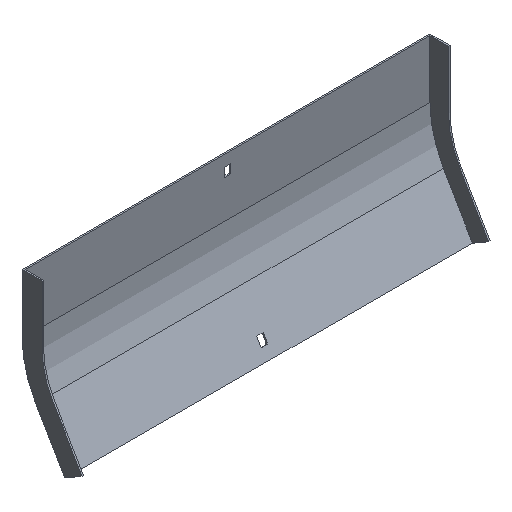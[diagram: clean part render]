
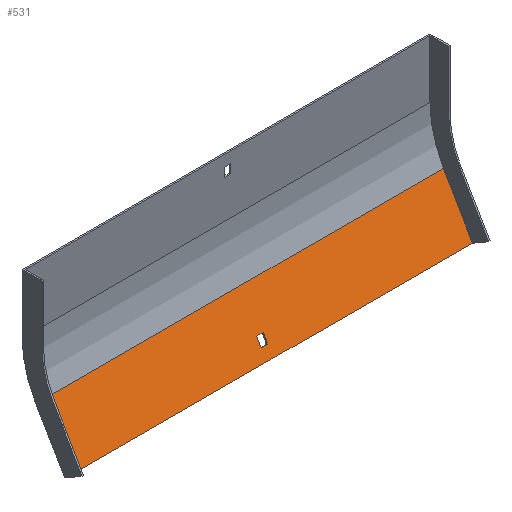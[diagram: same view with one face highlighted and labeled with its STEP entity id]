
A CAD part, isometric view. The second image highlights one B-rep face of the part: STEP entity #531.
In plain terms, the highlighted planar face has unit normal (0, -0.866, 0.5).
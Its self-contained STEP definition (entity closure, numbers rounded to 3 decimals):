
#14 = VERTEX_POINT ( 'NONE', #209 ) ;
#15 = EDGE_CURVE ( 'NONE', #756, #14, #817, .T. ) ;
#17 = LINE ( 'NONE', #208, #64 ) ;
#25 = CARTESIAN_POINT ( 'NONE',  ( -3.25, -33.847, -140.722 ) ) ;
#30 = CARTESIAN_POINT ( 'NONE',  ( 202., -43.847, -158.043 ) ) ;
#55 = VERTEX_POINT ( 'NONE', #25 ) ;
#61 = ORIENTED_EDGE ( 'NONE', *, *, #372, .T. ) ;
#64 = VECTOR ( 'NONE', #470, 1000. ) ;
#67 = CARTESIAN_POINT ( 'NONE',  ( 203.5, -33.847, -140.722 ) ) ;
#73 = CARTESIAN_POINT ( 'NONE',  ( 203.5, -14.897, -107.9 ) ) ;
#85 = ORIENTED_EDGE ( 'NONE', *, *, #15, .T. ) ;
#102 = FACE_BOUND ( 'NONE', #351, .T. ) ;
#110 = VERTEX_POINT ( 'NONE', #30 ) ;
#114 = ORIENTED_EDGE ( 'NONE', *, *, #844, .T. ) ;
#117 = CARTESIAN_POINT ( 'NONE',  ( 3.25, -33.847, -140.722 ) ) ;
#148 = CARTESIAN_POINT ( 'NONE',  ( -3.25, -14.897, -107.9 ) ) ;
#166 = DIRECTION ( 'NONE',  ( 0., 0.5, 0.866 ) ) ;
#185 = VECTOR ( 'NONE', #728, 1000. ) ;
#207 = LINE ( 'NONE', #148, #338 ) ;
#208 = CARTESIAN_POINT ( 'NONE',  ( 203.5, -43.847, -158.043 ) ) ;
#209 = CARTESIAN_POINT ( 'NONE',  ( -3.25, -38.347, -148.517 ) ) ;
#220 = EDGE_LOOP ( 'NONE', ( #289, #686, #61, #299 ) ) ;
#229 = VERTEX_POINT ( 'NONE', #117 ) ;
#247 = VECTOR ( 'NONE', #438, 1000. ) ;
#250 = ORIENTED_EDGE ( 'NONE', *, *, #783, .T. ) ;
#261 = CARTESIAN_POINT ( 'NONE',  ( 202., -14.897, -107.9 ) ) ;
#282 = DIRECTION ( 'NONE',  ( 0., -0.866, 0.5 ) ) ;
#289 = ORIENTED_EDGE ( 'NONE', *, *, #570, .F. ) ;
#299 = ORIENTED_EDGE ( 'NONE', *, *, #410, .T. ) ;
#303 = EDGE_CURVE ( 'NONE', #55, #229, #518, .T. ) ;
#315 = ORIENTED_EDGE ( 'NONE', *, *, #303, .T. ) ;
#318 = VECTOR ( 'NONE', #750, 1000. ) ;
#338 = VECTOR ( 'NONE', #803, 1000. ) ;
#351 = EDGE_LOOP ( 'NONE', ( #85, #250, #315, #114 ) ) ;
#368 = PLANE ( 'NONE',  #477 ) ;
#372 = EDGE_CURVE ( 'NONE', #110, #481, #622, .T. ) ;
#383 = EDGE_CURVE ( 'NONE', #110, #679, #17, .T. ) ;
#410 = EDGE_CURVE ( 'NONE', #481, #654, #615, .T. ) ;
#435 = DIRECTION ( 'NONE',  ( 0., -0.5, -0.866 ) ) ;
#438 = DIRECTION ( 'NONE',  ( 1., 0., 0. ) ) ;
#461 = LINE ( 'NONE', #669, #185 ) ;
#470 = DIRECTION ( 'NONE',  ( -1., 0., 0. ) ) ;
#477 = AXIS2_PLACEMENT_3D ( 'NONE', #833, #282, #435 ) ;
#481 = VERTEX_POINT ( 'NONE', #261 ) ;
#512 = CARTESIAN_POINT ( 'NONE',  ( -202., -14.897, -107.9 ) ) ;
#518 = LINE ( 'NONE', #67, #247 ) ;
#531 = ADVANCED_FACE ( 'NONE', ( #572, #102 ), #368, .T. ) ;
#551 = DIRECTION ( 'NONE',  ( -1., 0., 0. ) ) ;
#570 = EDGE_CURVE ( 'NONE', #679, #654, #767, .T. ) ;
#572 = FACE_OUTER_BOUND ( 'NONE', #220, .T. ) ;
#585 = CARTESIAN_POINT ( 'NONE',  ( 3.25, -38.347, -148.517 ) ) ;
#597 = CARTESIAN_POINT ( 'NONE',  ( -202., -43.847, -158.043 ) ) ;
#615 = LINE ( 'NONE', #73, #742 ) ;
#622 = LINE ( 'NONE', #737, #712 ) ;
#654 = VERTEX_POINT ( 'NONE', #512 ) ;
#669 = CARTESIAN_POINT ( 'NONE',  ( 3.25, -14.897, -107.9 ) ) ;
#671 = DIRECTION ( 'NONE',  ( 0., 0.5, 0.866 ) ) ;
#679 = VERTEX_POINT ( 'NONE', #597 ) ;
#686 = ORIENTED_EDGE ( 'NONE', *, *, #383, .F. ) ;
#712 = VECTOR ( 'NONE', #671, 1000. ) ;
#727 = VECTOR ( 'NONE', #166, 1000. ) ;
#728 = DIRECTION ( 'NONE',  ( 0., -0.5, -0.866 ) ) ;
#737 = CARTESIAN_POINT ( 'NONE',  ( 202., -14.897, -107.9 ) ) ;
#742 = VECTOR ( 'NONE', #551, 1000. ) ;
#745 = CARTESIAN_POINT ( 'NONE',  ( 203.5, -38.347, -148.517 ) ) ;
#750 = DIRECTION ( 'NONE',  ( -1., 0., 0. ) ) ;
#756 = VERTEX_POINT ( 'NONE', #585 ) ;
#761 = CARTESIAN_POINT ( 'NONE',  ( -202., -14.897, -107.9 ) ) ;
#767 = LINE ( 'NONE', #761, #727 ) ;
#783 = EDGE_CURVE ( 'NONE', #14, #55, #207, .T. ) ;
#803 = DIRECTION ( 'NONE',  ( 0., 0.5, 0.866 ) ) ;
#817 = LINE ( 'NONE', #745, #318 ) ;
#833 = CARTESIAN_POINT ( 'NONE',  ( 203.5, -14.897, -107.9 ) ) ;
#844 = EDGE_CURVE ( 'NONE', #229, #756, #461, .T. ) ;
